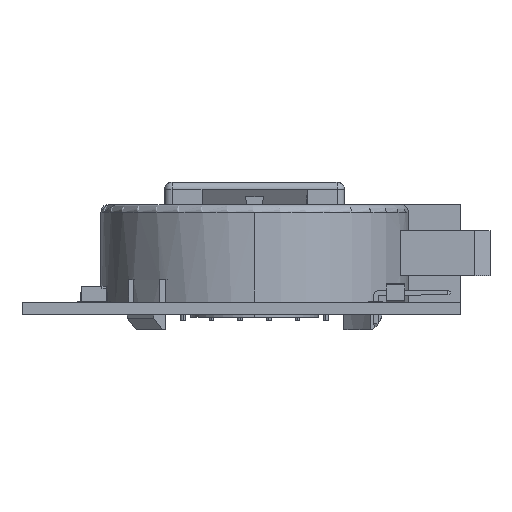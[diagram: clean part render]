
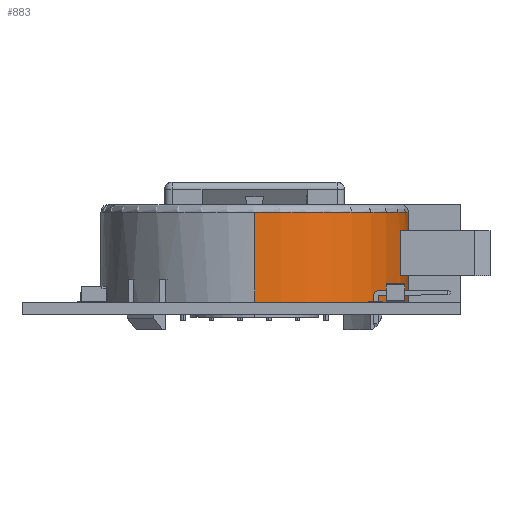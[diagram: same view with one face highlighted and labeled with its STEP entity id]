
A CAD part, left-side view. The second image highlights one B-rep face of the part: STEP entity #883.
In plain terms, the highlighted cylindrical face has radius 20.5 mm (diameter 41 mm), a partial arc.
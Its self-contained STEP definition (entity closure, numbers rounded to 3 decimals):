
#76 = AXIS2_PLACEMENT_3D ( 'NONE', #12994, #2950, #14663 ) ;
#130 = VERTEX_POINT ( 'NONE', #14486 ) ;
#200 = AXIS2_PLACEMENT_3D ( 'NONE', #13449, #3413, #15146 ) ;
#324 = VECTOR ( 'NONE', #9725, 1000. ) ;
#489 = CARTESIAN_POINT ( 'NONE',  ( -0.5, -20.494, 0. ) ) ;
#883 = ADVANCED_FACE ( 'NONE', ( #6298 ), #14700, .T. ) ;
#1217 = LINE ( 'NONE', #5369, #18000 ) ;
#1237 = CARTESIAN_POINT ( 'NONE',  ( -6.5, -19.442, 9.5 ) ) ;
#1270 = VERTEX_POINT ( 'NONE', #489 ) ;
#1429 = CIRCLE ( 'NONE', #7746, 20.5 ) ;
#1440 = ORIENTED_EDGE ( 'NONE', *, *, #8526, .T. ) ;
#1616 = ORIENTED_EDGE ( 'NONE', *, *, #17864, .F. ) ;
#2231 = CARTESIAN_POINT ( 'NONE',  ( -0.5, -20.494, 7. ) ) ;
#2673 = CARTESIAN_POINT ( 'NONE',  ( 0., 0., 3.5 ) ) ;
#2698 = VECTOR ( 'NONE', #21575, 1000. ) ;
#2950 = DIRECTION ( 'NONE',  ( 0., 0., -1. ) ) ;
#3299 = VERTEX_POINT ( 'NONE', #20225 ) ;
#3317 = ORIENTED_EDGE ( 'NONE', *, *, #16087, .T. ) ;
#3413 = DIRECTION ( 'NONE',  ( 0., 0., 1. ) ) ;
#3512 = VERTEX_POINT ( 'NONE', #10773 ) ;
#3906 = CIRCLE ( 'NONE', #15812, 20.5 ) ;
#4257 = LINE ( 'NONE', #13131, #324 ) ;
#4388 = DIRECTION ( 'NONE',  ( 1., 0., 0. ) ) ;
#4406 = ORIENTED_EDGE ( 'NONE', *, *, #19466, .F. ) ;
#4665 = CARTESIAN_POINT ( 'NONE',  ( 0., 0., 6. ) ) ;
#4741 = CARTESIAN_POINT ( 'NONE',  ( 0., 0., 13. ) ) ;
#4899 = CIRCLE ( 'NONE', #11756, 20.5 ) ;
#5355 = ORIENTED_EDGE ( 'NONE', *, *, #19657, .T. ) ;
#5369 = CARTESIAN_POINT ( 'NONE',  ( -20.5, 0., 13. ) ) ;
#5493 = CARTESIAN_POINT ( 'NONE',  ( -4.91, -19.903, 6. ) ) ;
#5753 = LINE ( 'NONE', #1237, #14673 ) ;
#5896 = ORIENTED_EDGE ( 'NONE', *, *, #14827, .F. ) ;
#5968 = CARTESIAN_POINT ( 'NONE',  ( -4.91, -19.903, 7. ) ) ;
#6014 = CIRCLE ( 'NONE', #200, 20.5 ) ;
#6060 = DIRECTION ( 'NONE',  ( 0., 0., -1. ) ) ;
#6131 = ORIENTED_EDGE ( 'NONE', *, *, #18396, .T. ) ;
#6189 = DIRECTION ( 'NONE',  ( 0., 0., -1. ) ) ;
#6298 = FACE_OUTER_BOUND ( 'NONE', #7690, .T. ) ;
#6315 = DIRECTION ( 'NONE',  ( 1., 0., 0. ) ) ;
#6487 = VECTOR ( 'NONE', #16661, 1000. ) ;
#6998 = LINE ( 'NONE', #14966, #6487 ) ;
#7036 = CIRCLE ( 'NONE', #76, 20.5 ) ;
#7085 = DIRECTION ( 'NONE',  ( 0., 0., -1. ) ) ;
#7690 = EDGE_LOOP ( 'NONE', ( #19050, #1440, #5355, #9435, #13986, #3317, #15808, #4406, #8978, #6131, #1616, #5896 ) ) ;
#7746 = AXIS2_PLACEMENT_3D ( 'NONE', #4665, #16373, #6315 ) ;
#8075 = DIRECTION ( 'NONE',  ( 0., 0., -1. ) ) ;
#8130 = AXIS2_PLACEMENT_3D ( 'NONE', #4741, #8075, #19718 ) ;
#8171 = VERTEX_POINT ( 'NONE', #10953 ) ;
#8526 = EDGE_CURVE ( 'NONE', #10404, #8171, #1217, .T. ) ;
#8760 = CARTESIAN_POINT ( 'NONE',  ( -20.5, 0., 12. ) ) ;
#8838 = LINE ( 'NONE', #12701, #17251 ) ;
#8978 = ORIENTED_EDGE ( 'NONE', *, *, #18931, .F. ) ;
#9435 = ORIENTED_EDGE ( 'NONE', *, *, #20209, .F. ) ;
#9725 = DIRECTION ( 'NONE',  ( 0., 0., -1. ) ) ;
#9882 = CARTESIAN_POINT ( 'NONE',  ( -4.91, -19.903, 9.5 ) ) ;
#10404 = VERTEX_POINT ( 'NONE', #8760 ) ;
#10440 = CIRCLE ( 'NONE', #14684, 20.5 ) ;
#10773 = CARTESIAN_POINT ( 'NONE',  ( -4.91, -19.903, 9.5 ) ) ;
#10953 = CARTESIAN_POINT ( 'NONE',  ( -20.5, 0., 0. ) ) ;
#11756 = AXIS2_PLACEMENT_3D ( 'NONE', #16117, #6060, #17825 ) ;
#12448 = VERTEX_POINT ( 'NONE', #5968 ) ;
#12510 = CARTESIAN_POINT ( 'NONE',  ( -6.5, -19.442, 3.5 ) ) ;
#12701 = CARTESIAN_POINT ( 'NONE',  ( -4.91, -19.903, 9.5 ) ) ;
#12954 = DIRECTION ( 'NONE',  ( 0., 0., -1. ) ) ;
#12994 = CARTESIAN_POINT ( 'NONE',  ( 0., 0., 12. ) ) ;
#13131 = CARTESIAN_POINT ( 'NONE',  ( -0.5, -20.494, 13. ) ) ;
#13449 = CARTESIAN_POINT ( 'NONE',  ( 0., 0., 0. ) ) ;
#13986 = ORIENTED_EDGE ( 'NONE', *, *, #15498, .T. ) ;
#14412 = DIRECTION ( 'NONE',  ( 0., 0., -1. ) ) ;
#14486 = CARTESIAN_POINT ( 'NONE',  ( -0.5, -20.494, 6. ) ) ;
#14663 = DIRECTION ( 'NONE',  ( 1., 0., 0. ) ) ;
#14673 = VECTOR ( 'NONE', #12954, 1000. ) ;
#14684 = AXIS2_PLACEMENT_3D ( 'NONE', #2673, #14412, #4388 ) ;
#14700 = CYLINDRICAL_SURFACE ( 'NONE', #8130, 20.5 ) ;
#14827 = EDGE_CURVE ( 'NONE', #19524, #16923, #4257, .T. ) ;
#14966 = CARTESIAN_POINT ( 'NONE',  ( -0.5, -20.494, 13. ) ) ;
#15146 = DIRECTION ( 'NONE',  ( 1., 0., 0. ) ) ;
#15498 = EDGE_CURVE ( 'NONE', #130, #18808, #1429, .T. ) ;
#15544 = LINE ( 'NONE', #9882, #2698 ) ;
#15808 = ORIENTED_EDGE ( 'NONE', *, *, #17818, .T. ) ;
#15812 = AXIS2_PLACEMENT_3D ( 'NONE', #16246, #6189, #17934 ) ;
#16087 = EDGE_CURVE ( 'NONE', #18808, #21630, #15544, .T. ) ;
#16117 = CARTESIAN_POINT ( 'NONE',  ( 0., 0., 9.5 ) ) ;
#16246 = CARTESIAN_POINT ( 'NONE',  ( 0., 0., 7. ) ) ;
#16373 = DIRECTION ( 'NONE',  ( 0., 0., -1. ) ) ;
#16661 = DIRECTION ( 'NONE',  ( 0., 0., -1. ) ) ;
#16923 = VERTEX_POINT ( 'NONE', #2231 ) ;
#17251 = VECTOR ( 'NONE', #20992, 1000. ) ;
#17694 = EDGE_CURVE ( 'NONE', #19524, #10404, #7036, .T. ) ;
#17738 = VERTEX_POINT ( 'NONE', #12510 ) ;
#17818 = EDGE_CURVE ( 'NONE', #21630, #17738, #10440, .T. ) ;
#17825 = DIRECTION ( 'NONE',  ( 1., 0., 0. ) ) ;
#17864 = EDGE_CURVE ( 'NONE', #16923, #12448, #3906, .T. ) ;
#17934 = DIRECTION ( 'NONE',  ( 1., 0., 0. ) ) ;
#18000 = VECTOR ( 'NONE', #7085, 1000. ) ;
#18396 = EDGE_CURVE ( 'NONE', #3512, #12448, #8838, .T. ) ;
#18808 = VERTEX_POINT ( 'NONE', #5493 ) ;
#18931 = EDGE_CURVE ( 'NONE', #3512, #3299, #4899, .T. ) ;
#19050 = ORIENTED_EDGE ( 'NONE', *, *, #17694, .T. ) ;
#19466 = EDGE_CURVE ( 'NONE', #3299, #17738, #5753, .T. ) ;
#19524 = VERTEX_POINT ( 'NONE', #19661 ) ;
#19657 = EDGE_CURVE ( 'NONE', #8171, #1270, #6014, .T. ) ;
#19661 = CARTESIAN_POINT ( 'NONE',  ( -0.5, -20.494, 12. ) ) ;
#19718 = DIRECTION ( 'NONE',  ( -1., 0., 0. ) ) ;
#20209 = EDGE_CURVE ( 'NONE', #130, #1270, #6998, .T. ) ;
#20225 = CARTESIAN_POINT ( 'NONE',  ( -6.5, -19.442, 9.5 ) ) ;
#20968 = CARTESIAN_POINT ( 'NONE',  ( -4.91, -19.903, 3.5 ) ) ;
#20992 = DIRECTION ( 'NONE',  ( 0., 0., -1. ) ) ;
#21575 = DIRECTION ( 'NONE',  ( 0., 0., -1. ) ) ;
#21630 = VERTEX_POINT ( 'NONE', #20968 ) ;
